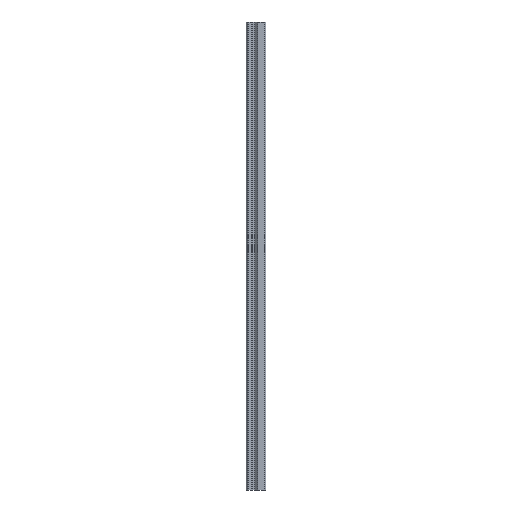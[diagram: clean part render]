
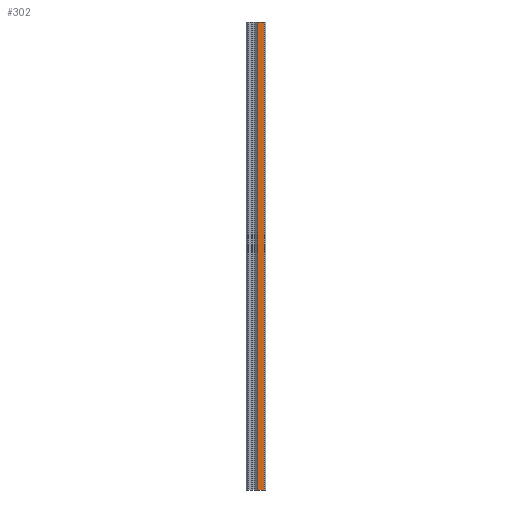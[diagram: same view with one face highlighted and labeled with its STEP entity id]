
A CAD part, left-side view. The second image highlights one B-rep face of the part: STEP entity #302.
In plain terms, the highlighted planar face has unit normal (-1, 0, 0).
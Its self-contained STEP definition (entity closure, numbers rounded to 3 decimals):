
#128 = VECTOR ( 'NONE', #1780, 1000. ) ;
#198 = ORIENTED_EDGE ( 'NONE', *, *, #203, .T. ) ;
#203 = EDGE_CURVE ( 'NONE', #515, #803, #1529, .T. ) ;
#259 = VECTOR ( 'NONE', #1586, 1000. ) ;
#266 = EDGE_LOOP ( 'NONE', ( #198, #1028, #2040, #1801 ) ) ;
#302 = ADVANCED_FACE ( 'NONE', ( #1148 ), #1015, .F. ) ;
#399 = CARTESIAN_POINT ( 'NONE',  ( -11.5, 7.95, -230. ) ) ;
#496 = DIRECTION ( 'NONE',  ( 0., 1., 0. ) ) ;
#515 = VERTEX_POINT ( 'NONE', #399 ) ;
#584 = LINE ( 'NONE', #1926, #1846 ) ;
#588 = LINE ( 'NONE', #1472, #620 ) ;
#620 = VECTOR ( 'NONE', #1809, 1000. ) ;
#677 = CARTESIAN_POINT ( 'NONE',  ( -11.5, 1.25, -230. ) ) ;
#779 = VERTEX_POINT ( 'NONE', #1984 ) ;
#803 = VERTEX_POINT ( 'NONE', #677 ) ;
#887 = CARTESIAN_POINT ( 'NONE',  ( -11.5, 1.25, 230. ) ) ;
#1015 = PLANE ( 'NONE',  #1873 ) ;
#1028 = ORIENTED_EDGE ( 'NONE', *, *, #1665, .T. ) ;
#1066 = LINE ( 'NONE', #1081, #259 ) ;
#1081 = CARTESIAN_POINT ( 'NONE',  ( -11.5, 1.25, 230. ) ) ;
#1148 = FACE_OUTER_BOUND ( 'NONE', #266, .T. ) ;
#1189 = CARTESIAN_POINT ( 'NONE',  ( -11.5, 19.2, 230. ) ) ;
#1314 = EDGE_CURVE ( 'NONE', #515, #779, #588, .T. ) ;
#1472 = CARTESIAN_POINT ( 'NONE',  ( -11.5, 7.95, -230. ) ) ;
#1529 = LINE ( 'NONE', #2112, #128 ) ;
#1583 = VERTEX_POINT ( 'NONE', #887 ) ;
#1586 = DIRECTION ( 'NONE',  ( 0., 0., 1. ) ) ;
#1637 = DIRECTION ( 'NONE',  ( 1., 0., 0. ) ) ;
#1665 = EDGE_CURVE ( 'NONE', #803, #1583, #1066, .T. ) ;
#1780 = DIRECTION ( 'NONE',  ( 0., -1., 0. ) ) ;
#1801 = ORIENTED_EDGE ( 'NONE', *, *, #1314, .F. ) ;
#1809 = DIRECTION ( 'NONE',  ( 0., 0., 1. ) ) ;
#1843 = EDGE_CURVE ( 'NONE', #779, #1583, #584, .T. ) ;
#1846 = VECTOR ( 'NONE', #2070, 1000. ) ;
#1873 = AXIS2_PLACEMENT_3D ( 'NONE', #1189, #1637, #496 ) ;
#1926 = CARTESIAN_POINT ( 'NONE',  ( -11.5, 19.2, 230. ) ) ;
#1984 = CARTESIAN_POINT ( 'NONE',  ( -11.5, 7.95, 230. ) ) ;
#2040 = ORIENTED_EDGE ( 'NONE', *, *, #1843, .F. ) ;
#2070 = DIRECTION ( 'NONE',  ( 0., -1., 0. ) ) ;
#2112 = CARTESIAN_POINT ( 'NONE',  ( -11.5, 19.2, -230. ) ) ;
